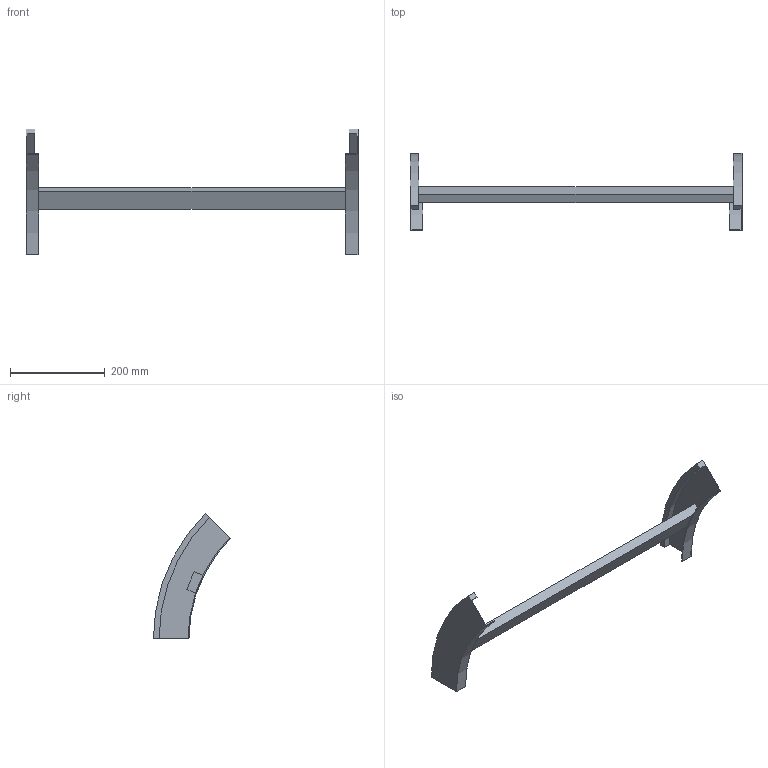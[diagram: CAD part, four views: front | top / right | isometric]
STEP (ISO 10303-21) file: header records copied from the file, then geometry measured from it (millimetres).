
FILE_DESCRIPTION (( 'STEP AP214' ), '1' );
FILE_NAME ('B2_34B3C700.step', '2025-02-21T14:55:42', ( '' ), ( '' ), 'SwSTEP 2.0', 'SolidWorks 2023', '' );
FILE_SCHEMA (( 'AUTOMOTIVE_DESIGN' ));
Length unit declared in the file: millimetre
Products named in the file (3): B2_LONGH.DISCESA_45°_H75_R300; TRAVERSINO_700; B2_34B3C700
Assembly tree (3 placements, depth 2):
  B2_34B3C700
    B2_LONGH.DISCESA_45°_H75_R300  x2
    TRAVERSINO_700
Bounding box: 700 x 162.87 x 265.17 mm (x, y, z)
Volume: 778209.8 mm3; surface area: 211234.6 mm2
Topology: 3 solids, 3 shells, 26 faces, 60 edges, 40 vertices
Faces by surface type: plane 18, cylinder 8
Entity records: 544 total; most frequent: DIRECTION 88, CARTESIAN_POINT 82, ORIENTED_EDGE 72, EDGE_CURVE 36, AXIS2_PLACEMENT_3D 30, VECTOR 28, LINE 28, VERTEX_POINT 24
